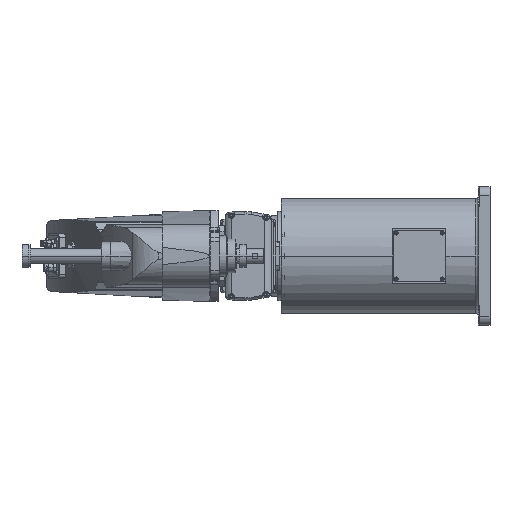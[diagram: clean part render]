
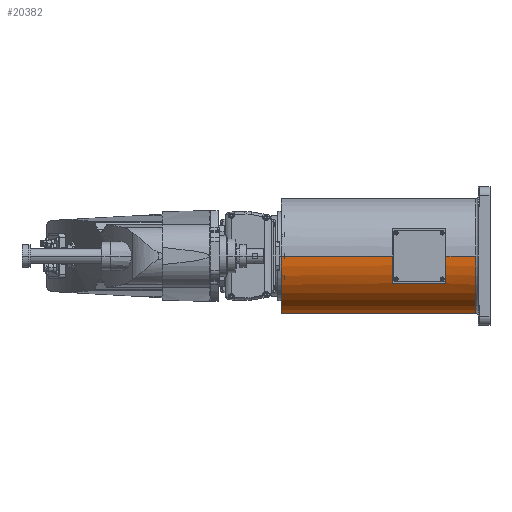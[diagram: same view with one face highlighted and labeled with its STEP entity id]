
A CAD part, left-side view. The second image highlights one B-rep face of the part: STEP entity #20382.
In plain terms, the highlighted cylindrical face has radius 100 mm (diameter 200 mm), a partial arc.
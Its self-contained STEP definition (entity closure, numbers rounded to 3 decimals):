
#9690 = EDGE_CURVE( '', #20940, #20582, #27638, .T. );
#9692 = EDGE_CURVE( '', #18762, #20940, #27640, .T. );
#9736 = VERTEX_POINT( '', #27690 );
#11168 = EDGE_CURVE( '', #14026, #23008, #29283, .T. );
#11402 = VERTEX_POINT( '', #29556 );
#11664 = VERTEX_POINT( '', #29839 );
#13402 = VERTEX_POINT( '', #31804 );
#13454 = EDGE_CURVE( '', #9736, #11402, #31863, .T. );
#13654 = EDGE_CURVE( '', #25230, #25068, #32086, .T. );
#14026 = VERTEX_POINT( '', #32517 );
#14166 = EDGE_CURVE( '', #13402, #17458, #32674, .T. );
#14732 = EDGE_CURVE( '', #9736, #14026, #33306, .T. );
#15934 = EDGE_CURVE( '', #20582, #11664, #34656, .T. );
#17458 = VERTEX_POINT( '', #36335 );
#17574 = EDGE_CURVE( '', #22858, #25230, #36467, .T. );
#18762 = VERTEX_POINT( '', #37780 );
#19770 = EDGE_CURVE( '', #17458, #25438, #38922, .T. );
#20382 = ADVANCED_FACE( '', ( #39601 ), #39602, .T. );
#20582 = VERTEX_POINT( '', #39827 );
#20668 = VERTEX_POINT( '', #39921 );
#20940 = VERTEX_POINT( '', #40230 );
#21064 = EDGE_CURVE( '', #25068, #20668, #40365, .T. );
#21370 = EDGE_CURVE( '', #22858, #11664, #40709, .T. );
#21814 = VERTEX_POINT( '', #41202 );
#22548 = EDGE_CURVE( '', #23008, #20668, #42028, .T. );
#22858 = VERTEX_POINT( '', #42362 );
#23008 = VERTEX_POINT( '', #42530 );
#23196 = EDGE_CURVE( '', #25438, #18762, #42740, .T. );
#25068 = VERTEX_POINT( '', #44800 );
#25230 = VERTEX_POINT( '', #44976 );
#25438 = VERTEX_POINT( '', #45209 );
#26468 = EDGE_CURVE( '', #11402, #21814, #46360, .T. );
#26616 = EDGE_CURVE( '', #21814, #13402, #46532, .T. );
#27638 = CIRCLE( '', #47936, 100. );
#27640 = LINE( '', #47939, #47940 );
#27690 = CARTESIAN_POINT( '', ( 100., 324., 0. ) );
#29283 = CIRCLE( '', #50283, 100. );
#29556 = CARTESIAN_POINT( '', ( 89.303, 324., -45. ) );
#29839 = CARTESIAN_POINT( '', ( -100., 25., 0. ) );
#31804 = CARTESIAN_POINT( '', ( 75.993, 326., -65. ) );
#31863 = CIRCLE( '', #54006, 100. );
#32086 = LINE( '', #54370, #54371 );
#32517 = CARTESIAN_POINT( '', ( 100., 363., 0. ) );
#32674 = LINE( '', #55211, #55212 );
#33306 = LINE( '', #56215, #56216 );
#34656 = CIRCLE( '', #58081, 100. );
#36335 = CARTESIAN_POINT( '', ( 75.993, 324., -65. ) );
#36467 = CIRCLE( '', #60642, 100. );
#37780 = CARTESIAN_POINT( '', ( 66.144, 320., -75. ) );
#38922 = CIRCLE( '', #64356, 100. );
#39601 = FACE_OUTER_BOUND( '', #65362, .T. );
#39602 = CYLINDRICAL_SURFACE( '', #65363, 100. );
#39827 = CARTESIAN_POINT( '', ( 0., 25., -100. ) );
#39921 = CARTESIAN_POINT( '', ( -100., 169.7, 0. ) );
#40230 = CARTESIAN_POINT( '', ( 66.144, 25., -75. ) );
#40365 = CIRCLE( '', #66494, 100. );
#40709 = LINE( '', #67007, #67008 );
#41202 = CARTESIAN_POINT( '', ( 89.303, 326., -45. ) );
#42028 = LINE( '', #68850, #68851 );
#42362 = CARTESIAN_POINT( '', ( -100., 76.7, 0. ) );
#42530 = CARTESIAN_POINT( '', ( -100., 363., 0. ) );
#42740 = B_SPLINE_CURVE_WITH_KNOTS( '', 3, ( #69865, #69866, #69867, #69868, #69869, #69870, #69871, #69872, #69873, #69874, #69875, #69876, #69877, #69878, #69879, #69880, #69881, #69882 ), .UNSPECIFIED., .F., .F., ( 4, 2, 2, 2, 2, 2, 2, 2, 4 ), ( -7.48, -6.36, -5.24, -4.12, -3., -2.25, -1.5, -0.75, 0. ), .UNSPECIFIED. );
#44800 = CARTESIAN_POINT( '', ( -88., 169.7, -47.497 ) );
#44976 = CARTESIAN_POINT( '', ( -88., 76.7, -47.497 ) );
#45209 = CARTESIAN_POINT( '', ( 70.42, 324., -71. ) );
#46360 = LINE( '', #75039, #75040 );
#46532 = CIRCLE( '', #75280, 100. );
#47936 = AXIS2_PLACEMENT_3D( '', #76483, #76484, #76485 );
#47939 = CARTESIAN_POINT( '', ( 66.144, 172.5, -75. ) );
#47940 = VECTOR( '', #76486, 1. );
#50283 = AXIS2_PLACEMENT_3D( '', #78393, #78394, #78395 );
#54006 = AXIS2_PLACEMENT_3D( '', #81530, #81531, #81532 );
#54370 = CARTESIAN_POINT( '', ( -88., 123.2, -47.497 ) );
#54371 = VECTOR( '', #81790, 1. );
#55211 = CARTESIAN_POINT( '', ( 75.993, 325., -65. ) );
#55212 = VECTOR( '', #82501, 1. );
#56215 = CARTESIAN_POINT( '', ( 100., 194., 0. ) );
#56216 = VECTOR( '', #83211, 1. );
#58081 = AXIS2_PLACEMENT_3D( '', #84862, #84863, #84864 );
#60642 = AXIS2_PLACEMENT_3D( '', #86817, #86818, #86819 );
#64356 = AXIS2_PLACEMENT_3D( '', #89617, #89618, #89619 );
#65362 = EDGE_LOOP( '', ( #90399, #90400, #90401, #90402, #90403, #90404, #90405, #90406, #90407, #90408, #90409, #90410, #90411, #90412, #90413, #90414 ) );
#65363 = AXIS2_PLACEMENT_3D( '', #90415, #90416, #90417 );
#66494 = AXIS2_PLACEMENT_3D( '', #91299, #91300, #91301 );
#67007 = CARTESIAN_POINT( '', ( -100., 194., 0. ) );
#67008 = VECTOR( '', #91728, 1. );
#68850 = CARTESIAN_POINT( '', ( -100., 194., 0. ) );
#68851 = VECTOR( '', #93273, 1. );
#69865 = CARTESIAN_POINT( '', ( 70.42, 324., -71. ) );
#69866 = CARTESIAN_POINT( '', ( 70.155, 324., -71.263 ) );
#69867 = CARTESIAN_POINT( '', ( 69.877, 323.974, -71.535 ) );
#69868 = CARTESIAN_POINT( '', ( 69.316, 323.861, -72.08 ) );
#69869 = CARTESIAN_POINT( '', ( 69.031, 323.776, -72.352 ) );
#69870 = CARTESIAN_POINT( '', ( 68.475, 323.543, -72.879 ) );
#69871 = CARTESIAN_POINT( '', ( 68.203, 323.396, -73.134 ) );
#69872 = CARTESIAN_POINT( '', ( 67.688, 323.046, -73.61 ) );
#69873 = CARTESIAN_POINT( '', ( 67.446, 322.842, -73.831 ) );
#69874 = CARTESIAN_POINT( '', ( 67.082, 322.458, -74.162 ) );
#69875 = CARTESIAN_POINT( '', ( 66.938, 322.284, -74.292 ) );
#69876 = CARTESIAN_POINT( '', ( 66.674, 321.897, -74.529 ) );
#69877 = CARTESIAN_POINT( '', ( 66.555, 321.685, -74.636 ) );
#69878 = CARTESIAN_POINT( '', ( 66.356, 321.234, -74.812 ) );
#69879 = CARTESIAN_POINT( '', ( 66.277, 320.995, -74.882 ) );
#69880 = CARTESIAN_POINT( '', ( 66.171, 320.503, -74.976 ) );
#69881 = CARTESIAN_POINT( '', ( 66.144, 320.25, -75. ) );
#69882 = CARTESIAN_POINT( '', ( 66.144, 320., -75. ) );
#75039 = CARTESIAN_POINT( '', ( 89.303, 325., -45. ) );
#75040 = VECTOR( '', #98015, 1. );
#75280 = AXIS2_PLACEMENT_3D( '', #98277, #98278, #98279 );
#76483 = CARTESIAN_POINT( '', ( 0., 25., 0. ) );
#76484 = DIRECTION( '', ( 0., 1., 0. ) );
#76485 = DIRECTION( '', ( 1., 0., 0. ) );
#76486 = DIRECTION( '', ( 0., -1., 0. ) );
#78393 = CARTESIAN_POINT( '', ( 0., 363., 0. ) );
#78394 = DIRECTION( '', ( 0., 1., 0. ) );
#78395 = DIRECTION( '', ( 1., 0., 0. ) );
#81530 = CARTESIAN_POINT( '', ( 0., 324., 0. ) );
#81531 = DIRECTION( '', ( 0., 1., 0. ) );
#81532 = DIRECTION( '', ( 1., 0., 0. ) );
#81790 = DIRECTION( '', ( 0., 1., 0. ) );
#82501 = DIRECTION( '', ( 0., -1., 0. ) );
#83211 = DIRECTION( '', ( 0., 1., 0. ) );
#84862 = CARTESIAN_POINT( '', ( 0., 25., 0. ) );
#84863 = DIRECTION( '', ( 0., 1., 0. ) );
#84864 = DIRECTION( '', ( 1., 0., 0. ) );
#86817 = CARTESIAN_POINT( '', ( 0., 76.7, 0. ) );
#86818 = DIRECTION( '', ( 0., -1., 0. ) );
#86819 = DIRECTION( '', ( 1., 0., 0. ) );
#89617 = CARTESIAN_POINT( '', ( 0., 324., 0. ) );
#89618 = DIRECTION( '', ( 0., 1., 0. ) );
#89619 = DIRECTION( '', ( 1., 0., 0. ) );
#90399 = ORIENTED_EDGE( '', *, *, #14732, .F. );
#90400 = ORIENTED_EDGE( '', *, *, #13454, .T. );
#90401 = ORIENTED_EDGE( '', *, *, #26468, .T. );
#90402 = ORIENTED_EDGE( '', *, *, #26616, .T. );
#90403 = ORIENTED_EDGE( '', *, *, #14166, .T. );
#90404 = ORIENTED_EDGE( '', *, *, #19770, .T. );
#90405 = ORIENTED_EDGE( '', *, *, #23196, .T. );
#90406 = ORIENTED_EDGE( '', *, *, #9692, .T. );
#90407 = ORIENTED_EDGE( '', *, *, #9690, .T. );
#90408 = ORIENTED_EDGE( '', *, *, #15934, .T. );
#90409 = ORIENTED_EDGE( '', *, *, #21370, .F. );
#90410 = ORIENTED_EDGE( '', *, *, #17574, .T. );
#90411 = ORIENTED_EDGE( '', *, *, #13654, .T. );
#90412 = ORIENTED_EDGE( '', *, *, #21064, .T. );
#90413 = ORIENTED_EDGE( '', *, *, #22548, .F. );
#90414 = ORIENTED_EDGE( '', *, *, #11168, .F. );
#90415 = CARTESIAN_POINT( '', ( 0., 194., 0. ) );
#90416 = DIRECTION( '', ( 0., -1., 0. ) );
#90417 = DIRECTION( '', ( 1., 0., 0. ) );
#91299 = CARTESIAN_POINT( '', ( 0., 169.7, 0. ) );
#91300 = DIRECTION( '', ( 0., 1., 0. ) );
#91301 = DIRECTION( '', ( 1., 0., 0. ) );
#91728 = DIRECTION( '', ( 0., -1., 0. ) );
#93273 = DIRECTION( '', ( 0., -1., 0. ) );
#98015 = DIRECTION( '', ( 0., 1., 0. ) );
#98277 = CARTESIAN_POINT( '', ( 0., 326., 0. ) );
#98278 = DIRECTION( '', ( 0., 1., 0. ) );
#98279 = DIRECTION( '', ( 1., 0., 0. ) );
